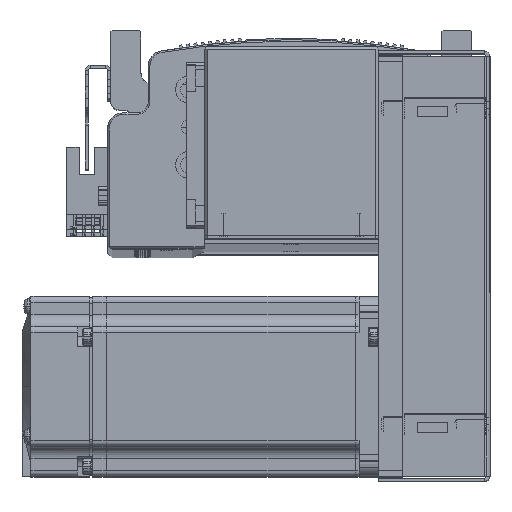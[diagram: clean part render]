
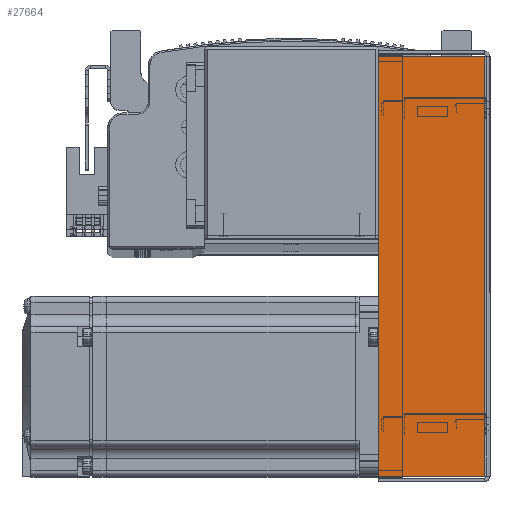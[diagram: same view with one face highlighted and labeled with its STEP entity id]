
A CAD part, top view. The second image highlights one B-rep face of the part: STEP entity #27664.
In plain terms, the highlighted planar face has unit normal (0, 0, 1).
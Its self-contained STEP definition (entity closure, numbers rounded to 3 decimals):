
#2880 = CARTESIAN_POINT ( 'NONE',  ( -69.793, 0.737, 33.5 ) ) ;
#2882 = CARTESIAN_POINT ( 'NONE',  ( 69.793, 36., 33.5 ) ) ;
#2917 = CARTESIAN_POINT ( 'NONE',  ( 69.793, 0.737, 33.5 ) ) ;
#2927 = CARTESIAN_POINT ( 'NONE',  ( -69.793, 36., 33.5 ) ) ;
#16081 = VERTEX_POINT ( 'NONE', #2917 ) ;
#16110 = VERTEX_POINT ( 'NONE', #2927 ) ;
#16150 = VERTEX_POINT ( 'NONE', #2882 ) ;
#16179 = VERTEX_POINT ( 'NONE', #2880 ) ;
#27664 = ADVANCED_FACE ( 'NONE', ( #68877 ), #49316, .F. ) ;
#31044 = EDGE_CURVE ( 'NONE', #16081, #16150, #86284, .T. ) ;
#31071 = EDGE_CURVE ( 'NONE', #16179, #16110, #86398, .T. ) ;
#31094 = EDGE_CURVE ( 'NONE', #16081, #16179, #86346, .T. ) ;
#31144 = EDGE_CURVE ( 'NONE', #16150, #16110, #85316, .T. ) ;
#49316 = PLANE ( 'NONE',  #82679 ) ;
#49375 = CARTESIAN_POINT ( 'NONE',  ( 0., 0., 33.5 ) ) ;
#49376 = DIRECTION ( 'NONE',  ( 0., 0., -1. ) ) ;
#49385 = DIRECTION ( 'NONE',  ( -1., 0., 0. ) ) ;
#50322 = EDGE_LOOP ( 'NONE', ( #81476, #81432, #81487, #81416 ) ) ;
#68877 = FACE_OUTER_BOUND ( 'NONE', #50322, .T. ) ;
#70798 = DIRECTION ( 'NONE',  ( 0., 1., 0. ) ) ;
#70799 = CARTESIAN_POINT ( 'NONE',  ( 69.793, 0., 33.5 ) ) ;
#70827 = DIRECTION ( 'NONE',  ( 0., 1., 0. ) ) ;
#70847 = CARTESIAN_POINT ( 'NONE',  ( -69.793, 0., 33.5 ) ) ;
#70933 = DIRECTION ( 'NONE',  ( -1., 0., 0. ) ) ;
#70948 = CARTESIAN_POINT ( 'NONE',  ( -71.5, 0.737, 33.5 ) ) ;
#71275 = CARTESIAN_POINT ( 'NONE',  ( 0., 36., 33.5 ) ) ;
#71289 = DIRECTION ( 'NONE',  ( -1., 0., 0. ) ) ;
#81416 = ORIENTED_EDGE ( 'NONE', *, *, #31071, .F. ) ;
#81432 = ORIENTED_EDGE ( 'NONE', *, *, #31044, .T. ) ;
#81476 = ORIENTED_EDGE ( 'NONE', *, *, #31094, .F. ) ;
#81487 = ORIENTED_EDGE ( 'NONE', *, *, #31144, .T. ) ;
#82679 = AXIS2_PLACEMENT_3D ( 'NONE', #49375, #49376, #49385 ) ;
#85309 = VECTOR ( 'NONE', #71289, 1000. ) ;
#85316 = LINE ( 'NONE', #71275, #85309 ) ;
#86284 = LINE ( 'NONE', #70799, #86322 ) ;
#86322 = VECTOR ( 'NONE', #70798, 1000. ) ;
#86346 = LINE ( 'NONE', #70948, #86349 ) ;
#86349 = VECTOR ( 'NONE', #70933, 1000. ) ;
#86351 = VECTOR ( 'NONE', #70827, 1000. ) ;
#86398 = LINE ( 'NONE', #70847, #86351 ) ;
